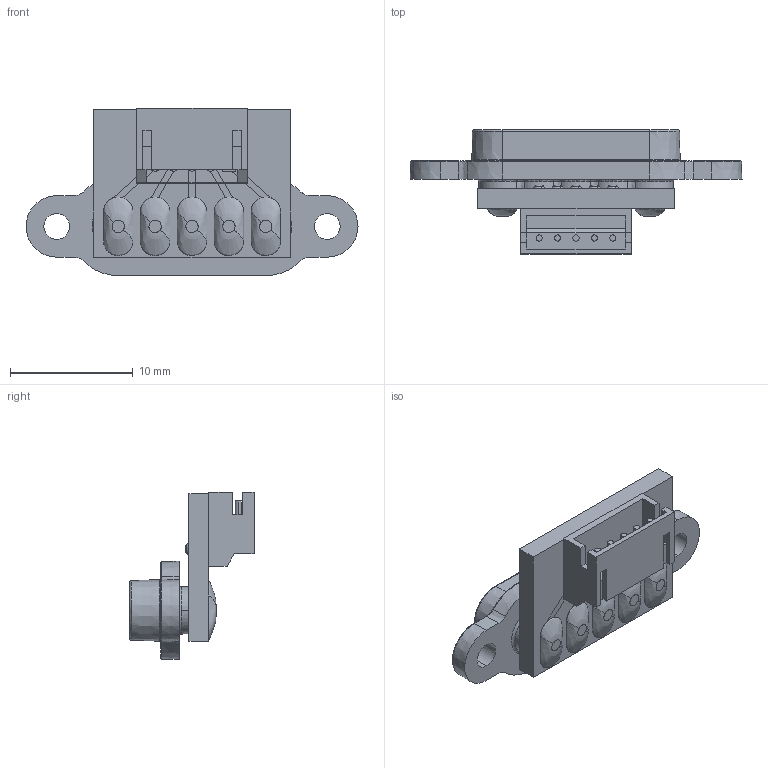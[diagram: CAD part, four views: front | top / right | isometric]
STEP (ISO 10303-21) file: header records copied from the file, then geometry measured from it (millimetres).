
FILE_DESCRIPTION (( 'STEP AP214' ), '1' );
FILE_NAME ('SWIFT DOCK MINI-5PC-L.STEP', '2021-07-28T13:40:05', ( '' ), ( '' ), 'SwSTEP 2.0', 'SolidWorks 2021', '' );
FILE_SCHEMA (( 'AUTOMOTIVE_DESIGN' ));
Length unit declared in the file: millimetre
Products named in the file (8): contact land_sd_mini_10; solder_large_SD mini_12; SWIFT DOCK MINI-5PC-L; PCB_5 way_mini; solder spill_small_sd mini_6; S5B-ZR; land body_5 hole_mini_1; PCB_5 way_mini_assy_PCB_connector
Assembly tree (19 placements, depth 3):
  SWIFT DOCK MINI-5PC-L
    land body_5 hole_mini_1
    contact land_sd_mini_10  x5
    PCB_5 way_mini_assy_PCB_connector
      PCB_5 way_mini
      S5B-ZR
    solder_large_SD mini_12  x5
    solder spill_small_sd mini_6  x5
Bounding box: 27 x 10.1 x 13.6 mm (x, y, z)
Volume: 902.3 mm3; surface area: 1878.9 mm2
Topology: 18 solids, 18 shells, 556 faces, 1341 edges, 846 vertices
Faces by surface type: plane 208, cylinder 152, cone 107, bspline 89
Entity records: 20375 total; most frequent: CARTESIAN_POINT 5950, ORIENTED_EDGE 2102, DIRECTION 1776, EDGE_CURVE 1051, AXIS2_PLACEMENT_3D 673, VERTEX_POINT 666, EDGE_LOOP 481, UNCERTAINTY_MEASURE_WITH_UNIT 440
